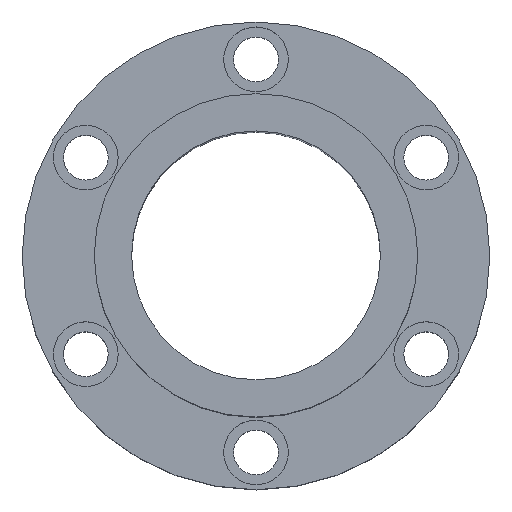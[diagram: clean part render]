
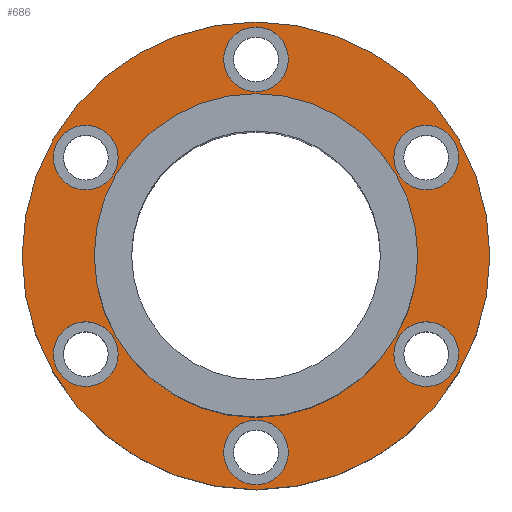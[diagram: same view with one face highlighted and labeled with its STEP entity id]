
A CAD part, top view. The second image highlights one B-rep face of the part: STEP entity #686.
In plain terms, the highlighted planar face has unit normal (0, 0, 1).
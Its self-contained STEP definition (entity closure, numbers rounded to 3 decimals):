
#1=CARTESIAN_POINT('',(0.,0.,32.));
#2=DIRECTION('',(0.,0.,1.));
#3=DIRECTION('',(1.,0.,0.));
#4=AXIS2_PLACEMENT_3D('',#1,#2,#3);
#6=CARTESIAN_POINT('',(0.,0.,32.));
#7=DIRECTION('',(0.,0.,1.));
#8=DIRECTION('',(-1.,0.,0.));
#9=AXIS2_PLACEMENT_3D('',#6,#7,#8);
#11=CARTESIAN_POINT('',(68.416,-39.5,32.));
#12=DIRECTION('',(0.,0.,-1.));
#13=DIRECTION('',(-0.5,-0.866,0.));
#14=AXIS2_PLACEMENT_3D('',#11,#12,#13);
#16=CARTESIAN_POINT('',(68.416,-39.5,32.));
#17=DIRECTION('',(0.,0.,-1.));
#18=DIRECTION('',(0.5,0.866,0.));
#19=AXIS2_PLACEMENT_3D('',#16,#17,#18);
#21=CARTESIAN_POINT('',(-68.416,-39.5,32.));
#22=DIRECTION('',(0.,0.,-1.));
#23=DIRECTION('',(-0.5,0.866,0.));
#24=AXIS2_PLACEMENT_3D('',#21,#22,#23);
#26=CARTESIAN_POINT('',(-68.416,-39.5,32.));
#27=DIRECTION('',(0.,0.,-1.));
#28=DIRECTION('',(0.5,-0.866,0.));
#29=AXIS2_PLACEMENT_3D('',#26,#27,#28);
#31=CARTESIAN_POINT('',(0.,79.,32.));
#32=DIRECTION('',(0.,0.,-1.));
#33=DIRECTION('',(1.,0.,0.));
#34=AXIS2_PLACEMENT_3D('',#31,#32,#33);
#36=CARTESIAN_POINT('',(0.,79.,32.));
#37=DIRECTION('',(0.,0.,-1.));
#38=DIRECTION('',(-1.,0.,0.));
#39=AXIS2_PLACEMENT_3D('',#36,#37,#38);
#41=CARTESIAN_POINT('',(0.,0.,32.));
#42=DIRECTION('',(0.,0.,-1.));
#43=DIRECTION('',(1.,0.,0.));
#44=AXIS2_PLACEMENT_3D('',#41,#42,#43);
#46=CARTESIAN_POINT('',(0.,0.,32.));
#47=DIRECTION('',(0.,0.,-1.));
#48=DIRECTION('',(-1.,0.,0.));
#49=AXIS2_PLACEMENT_3D('',#46,#47,#48);
#51=CARTESIAN_POINT('',(-68.416,39.5,32.));
#52=DIRECTION('',(0.,0.,-1.));
#53=DIRECTION('',(0.5,0.866,0.));
#54=AXIS2_PLACEMENT_3D('',#51,#52,#53);
#56=CARTESIAN_POINT('',(-68.416,39.5,32.));
#57=DIRECTION('',(0.,0.,-1.));
#58=DIRECTION('',(-0.5,-0.866,0.));
#59=AXIS2_PLACEMENT_3D('',#56,#57,#58);
#61=CARTESIAN_POINT('',(0.,-79.,32.));
#62=DIRECTION('',(0.,0.,-1.));
#63=DIRECTION('',(-1.,0.,0.));
#64=AXIS2_PLACEMENT_3D('',#61,#62,#63);
#66=CARTESIAN_POINT('',(0.,-79.,32.));
#67=DIRECTION('',(0.,0.,-1.));
#68=DIRECTION('',(1.,0.,0.));
#69=AXIS2_PLACEMENT_3D('',#66,#67,#68);
#71=CARTESIAN_POINT('',(68.416,39.5,32.));
#72=DIRECTION('',(0.,0.,-1.));
#73=DIRECTION('',(0.5,-0.866,0.));
#74=AXIS2_PLACEMENT_3D('',#71,#72,#73);
#76=CARTESIAN_POINT('',(68.416,39.5,32.));
#77=DIRECTION('',(0.,0.,-1.));
#78=DIRECTION('',(-0.5,0.866,0.));
#79=AXIS2_PLACEMENT_3D('',#76,#77,#78);
#561=CARTESIAN_POINT('',(-94.,0.,32.));
#563=VERTEX_POINT('',#561);
#565=CARTESIAN_POINT('',(94.,0.,32.));
#567=VERTEX_POINT('',#565);
#569=CARTESIAN_POINT('',(13.,79.,32.));
#571=VERTEX_POINT('',#569);
#573=CARTESIAN_POINT('',(-13.,79.,32.));
#575=VERTEX_POINT('',#573);
#577=CARTESIAN_POINT('',(-61.916,50.758,32.));
#579=VERTEX_POINT('',#577);
#581=CARTESIAN_POINT('',(-74.916,28.242,32.));
#583=VERTEX_POINT('',#581);
#585=CARTESIAN_POINT('',(-74.916,-28.242,32.));
#587=VERTEX_POINT('',#585);
#589=CARTESIAN_POINT('',(-61.916,-50.758,32.));
#591=VERTEX_POINT('',#589);
#593=CARTESIAN_POINT('',(-13.,-79.,32.));
#595=VERTEX_POINT('',#593);
#597=CARTESIAN_POINT('',(13.,-79.,32.));
#599=VERTEX_POINT('',#597);
#601=CARTESIAN_POINT('',(61.916,-50.758,32.));
#603=VERTEX_POINT('',#601);
#605=CARTESIAN_POINT('',(74.916,-28.242,32.));
#607=VERTEX_POINT('',#605);
#609=CARTESIAN_POINT('',(74.916,28.242,32.));
#611=VERTEX_POINT('',#609);
#613=CARTESIAN_POINT('',(61.916,50.758,32.));
#615=VERTEX_POINT('',#613);
#626=CARTESIAN_POINT('',(65.,0.,32.));
#628=VERTEX_POINT('',#626);
#630=CARTESIAN_POINT('',(-65.,0.,32.));
#632=VERTEX_POINT('',#630);
#633=CARTESIAN_POINT('',(0.,0.,32.));
#634=DIRECTION('',(0.,0.,1.));
#635=DIRECTION('',(1.,0.,0.));
#636=AXIS2_PLACEMENT_3D('',#633,#634,#635);
#637=PLANE('',#636);
#639=ORIENTED_EDGE('',*,*,#638,.F.);
#641=ORIENTED_EDGE('',*,*,#640,.F.);
#642=EDGE_LOOP('',(#639,#641));
#643=FACE_OUTER_BOUND('',#642,.F.);
#645=ORIENTED_EDGE('',*,*,#644,.F.);
#647=ORIENTED_EDGE('',*,*,#646,.F.);
#648=EDGE_LOOP('',(#645,#647));
#649=FACE_BOUND('',#648,.F.);
#651=ORIENTED_EDGE('',*,*,#650,.F.);
#653=ORIENTED_EDGE('',*,*,#652,.F.);
#654=EDGE_LOOP('',(#651,#653));
#655=FACE_BOUND('',#654,.F.);
#657=ORIENTED_EDGE('',*,*,#656,.F.);
#659=ORIENTED_EDGE('',*,*,#658,.F.);
#660=EDGE_LOOP('',(#657,#659));
#661=FACE_BOUND('',#660,.F.);
#663=ORIENTED_EDGE('',*,*,#662,.F.);
#665=ORIENTED_EDGE('',*,*,#664,.F.);
#666=EDGE_LOOP('',(#663,#665));
#667=FACE_BOUND('',#666,.F.);
#669=ORIENTED_EDGE('',*,*,#668,.F.);
#671=ORIENTED_EDGE('',*,*,#670,.F.);
#672=EDGE_LOOP('',(#669,#671));
#673=FACE_BOUND('',#672,.F.);
#675=ORIENTED_EDGE('',*,*,#674,.F.);
#677=ORIENTED_EDGE('',*,*,#676,.F.);
#678=EDGE_LOOP('',(#675,#677));
#679=FACE_BOUND('',#678,.F.);
#681=ORIENTED_EDGE('',*,*,#680,.F.);
#683=ORIENTED_EDGE('',*,*,#682,.F.);
#684=EDGE_LOOP('',(#681,#683));
#685=FACE_BOUND('',#684,.F.);
#686=ADVANCED_FACE('',(#643,#649,#655,#661,#667,#673,#679,#685),#637,.T.);
#5=CIRCLE('',#4,94.);
#10=CIRCLE('',#9,94.);
#15=CIRCLE('',#14,13.);
#20=CIRCLE('',#19,13.);
#25=CIRCLE('',#24,13.);
#30=CIRCLE('',#29,13.);
#35=CIRCLE('',#34,13.);
#40=CIRCLE('',#39,13.);
#45=CIRCLE('',#44,65.);
#50=CIRCLE('',#49,65.);
#55=CIRCLE('',#54,13.);
#60=CIRCLE('',#59,13.);
#65=CIRCLE('',#64,13.);
#70=CIRCLE('',#69,13.);
#75=CIRCLE('',#74,13.);
#80=CIRCLE('',#79,13.);
#638=EDGE_CURVE('',#567,#563,#5,.T.);
#640=EDGE_CURVE('',#563,#567,#10,.T.);
#644=EDGE_CURVE('',#603,#607,#15,.T.);
#646=EDGE_CURVE('',#607,#603,#20,.T.);
#650=EDGE_CURVE('',#587,#591,#25,.T.);
#652=EDGE_CURVE('',#591,#587,#30,.T.);
#656=EDGE_CURVE('',#571,#575,#35,.T.);
#658=EDGE_CURVE('',#575,#571,#40,.T.);
#662=EDGE_CURVE('',#628,#632,#45,.T.);
#664=EDGE_CURVE('',#632,#628,#50,.T.);
#668=EDGE_CURVE('',#579,#583,#55,.T.);
#670=EDGE_CURVE('',#583,#579,#60,.T.);
#674=EDGE_CURVE('',#595,#599,#65,.T.);
#676=EDGE_CURVE('',#599,#595,#70,.T.);
#680=EDGE_CURVE('',#611,#615,#75,.T.);
#682=EDGE_CURVE('',#615,#611,#80,.T.);
